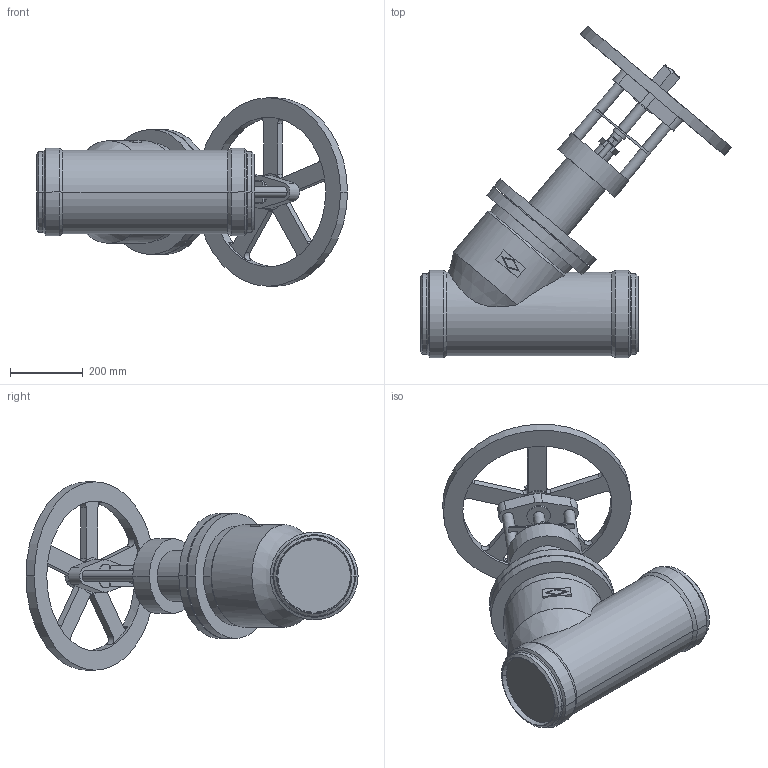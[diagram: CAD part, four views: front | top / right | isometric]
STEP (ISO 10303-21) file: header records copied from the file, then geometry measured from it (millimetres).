
FILE_DESCRIPTION(('Creo Elements/Direct Modeling STEP Export'),'2;1');
FILE_NAME('c000005028.stp','2012-09-20T12:08:46',(''),(''),'Creo Elements/Direct Modeling STEP processor for AP203 (Solid Model)','Creo Elements/Direct Modeling 17.0D 15-Jul-2011 (C) Parametric Technology GmbH','');
FILE_SCHEMA(('CONFIG_CONTROL_DESIGN'));
Length unit declared in the file: millimetre
Products named in the file (1): 1
Bounding box: 857.88 x 915.84 x 520 mm (x, y, z)
Volume: 48688972 mm3; surface area: 1541968.1 mm2
Topology: 1 solids, 1 shells, 223 faces, 571 edges, 371 vertices
Faces by surface type: plane 112, cylinder 87, cone 20, torus 4
Entity records: 6765 total; most frequent: CARTESIAN_POINT 1346, ORIENTED_EDGE 1142, DIRECTION 1080, EDGE_CURVE 571, AXIS2_PLACEMENT_3D 377, VERTEX_POINT 371, VECTOR 326, LINE 326
